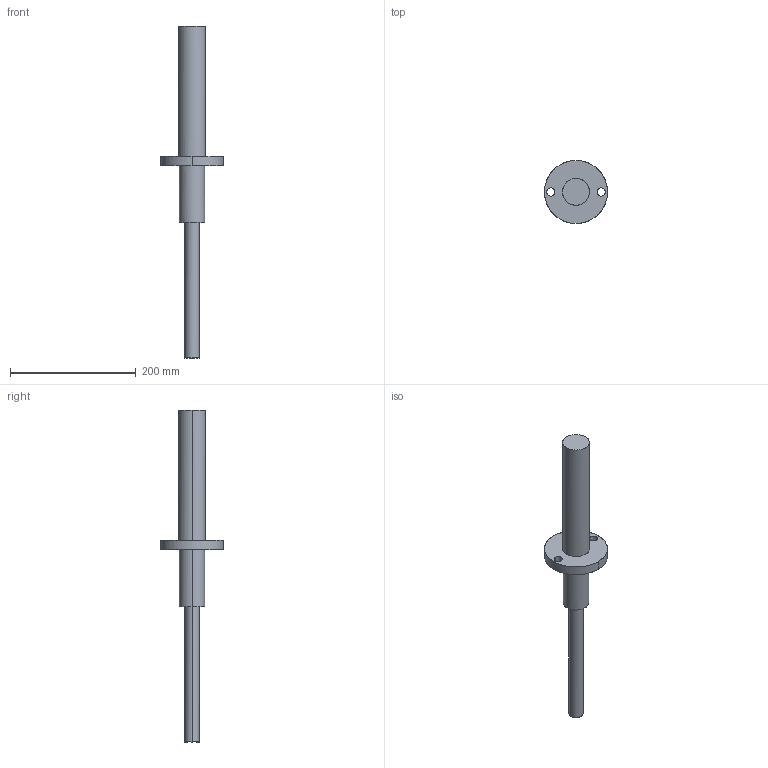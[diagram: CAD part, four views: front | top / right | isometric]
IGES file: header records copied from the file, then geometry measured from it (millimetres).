
Global section: file name: E:\UnigraphicsGraphicData\MISUMI_PRESS-PARTS\IGES\3d_papu200-90_01691_r00.igs; native system: NX V5.0; preprocessor: UGS NX IGES V5.0; author: MISUMI; date: 20110105.162225; units: millimetre
Bounding box: 100 x 100 x 527 mm (x, y, z)
Surface area: 80309.9 mm2 (no closed solid volume)
Topology: 0 solids, 0 shells, 21 faces, 232 edges, 232 vertices
Faces by surface type: bspline 21
